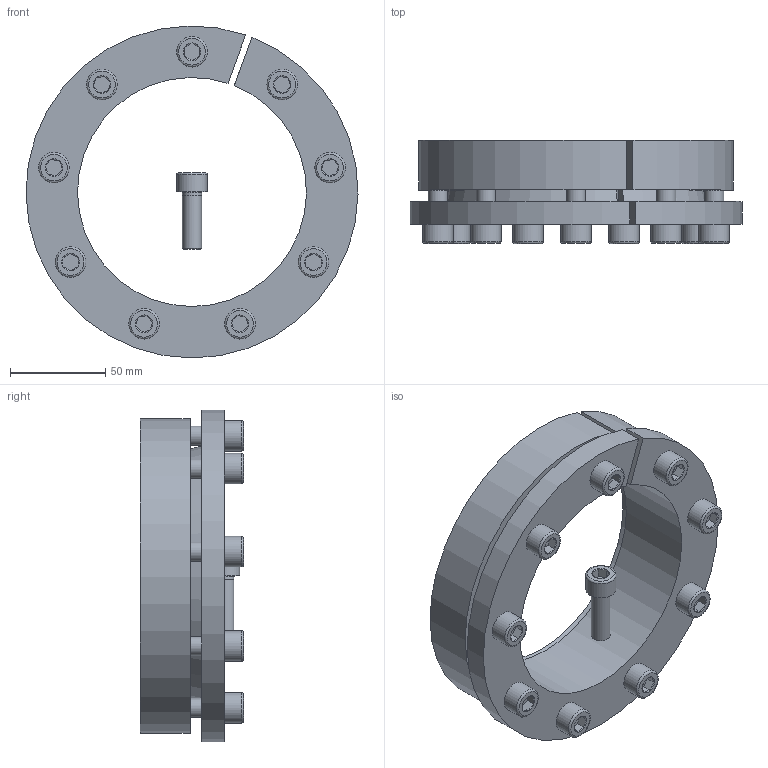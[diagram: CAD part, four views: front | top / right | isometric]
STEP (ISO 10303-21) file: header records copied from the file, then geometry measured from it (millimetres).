
FILE_DESCRIPTION( ( 'Unknown' ), '1' );
FILE_NAME( 'C:/Dokumente und Einstellungen/Sven/Desktop/homepage/cad - homepage/KBS16/KBS 16 - 120 x 165.stp', 'Unknown', ( 'Unknown' ), ( 'Unknown' ), 'XStep 1.0', 'Unknown', ' ' );
FILE_SCHEMA( ( 'automotive_design' ) );
Length unit declared in the file: millimetre
Products named in the file (3): Assem1; KBS 16 - 120 x 165; ISO EN DIN 4762 M10x30
Bounding box: 173.99 x 54 x 173.99 mm (x, y, z)
Volume: 836486 mm3; surface area: 195770.1 mm2
Topology: 12 solids, 12 shells, 310 faces, 616 edges, 370 vertices
Faces by surface type: plane 134, cylinder 82, cone 74, torus 20
Full cylindrical faces by diameter (mm): 9 x10, 10 x56, 16 x10
Entity records: 1848 total; most frequent: CARTESIAN_POINT 304, DIRECTION 286, ORIENTED_EDGE 202, AXIS2_PLACEMENT_3D 129, EDGE_LOOP 120, EDGE_CURVE 101, FACE_OUTER_BOUND 79, VERTEX_POINT 79
